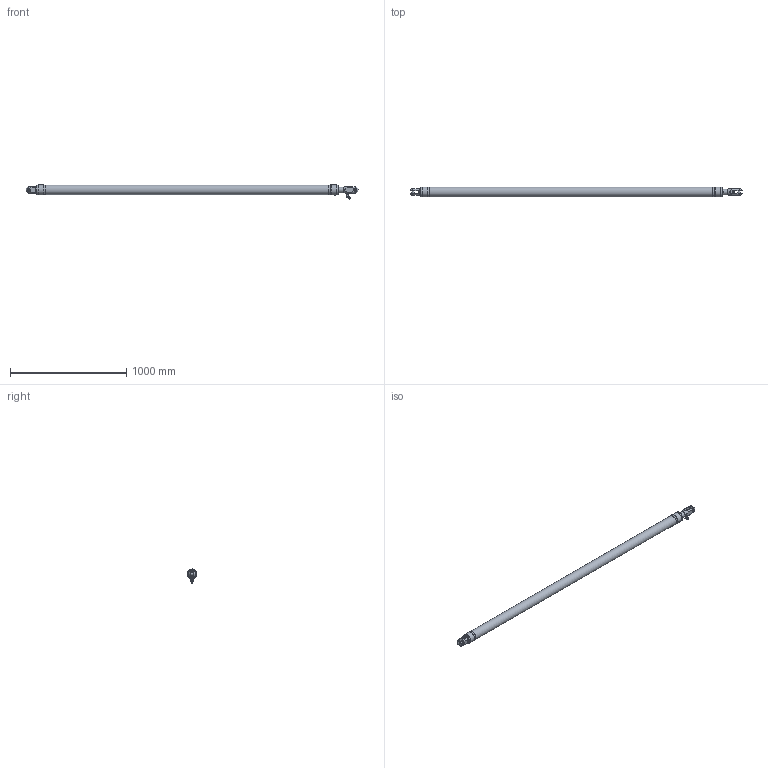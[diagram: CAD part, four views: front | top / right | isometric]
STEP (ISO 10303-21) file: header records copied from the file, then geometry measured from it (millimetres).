
FILE_DESCRIPTION(/* description */ (''),/* implementation_level */ '2;1');
FILE_NAME(/* name */ 'Q:\AA BRAND HYDRAULICS\HYDRAULICS FAMILY DIRECTORY\HYDRAULICS\CYLINDERS\VANGS\ALUMINIUM SINGLE ACTING - STAINLESS ON REQUEST (-0010 To -0150)\VSA-0030-S350-NP-71-L2800\VSA-0030-S350-NP-71-L2800 (Closed).stp',/* time_stamp */ '2018-04-26T10:15:37+01:00',/* author */ ('Lorena'),/* organization */ (''),/* preprocessor_version */ 'ST-DEVELOPER v17',/* originating_system */ 'Autodesk Inventor 2018',/* authorisation */ '');
FILE_SCHEMA (('AUTOMOTIVE_DESIGN { 1 0 10303 214 3 1 1 }'));
Products named in the file (1): VSA-0030-S350-NP-71-L2800 (Closed)
Bounding box: 2853.31 x 85.6 x 120.8 mm (x, y, z)
Volume: 14475117.3 mm3; surface area: 749556.4 mm2
Topology: 2 solids, 3 shells, 1589 faces, 4288 edges, 2841 vertices
Faces by surface type: plane 887, bspline 572, cylinder 66, cone 56, torus 4, sphere 4
Full cylindrical faces by diameter (mm): 5 x1, 5.1 x1, 5.9 x1, 8 x2, 9 x2, 11.157 x1, 11.5 x1, 11.8 x2, 12 x1, 12.157 x1, 12.5 x1, 12.77 x1, 13 x1, 13.157 x2, 14.5 x2, 16 x2, 18.3 x3, 19.05 x2, 22 x1, 23.875 x2, 48 x1, 82.6 x1, 83.6 x1, 85.6 x3
Entity records: 57751 total; most frequent: CARTESIAN_POINT 20024, ORIENTED_EDGE 8562, DIRECTION 5403, EDGE_CURVE 4281, VERTEX_POINT 2842, LINE 2725, VECTOR 2725, EDGE_LOOP 1741
